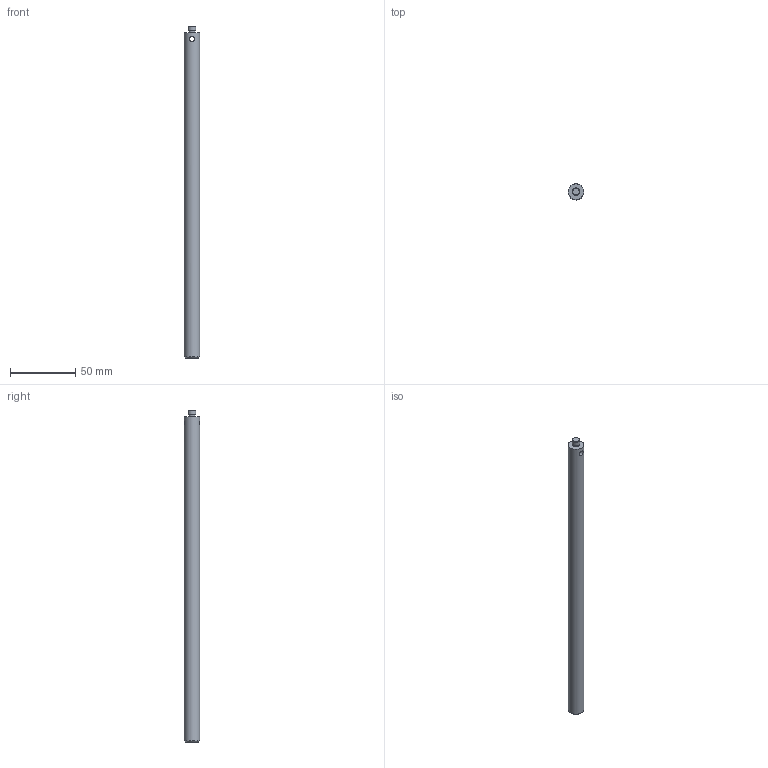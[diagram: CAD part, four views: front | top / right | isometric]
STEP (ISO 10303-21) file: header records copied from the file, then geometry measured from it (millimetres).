
FILE_DESCRIPTION((''),'2;1');
FILE_NAME('S:\1規格品図面ﾃﾞｰﾀ\OpticalHard\01_国内製品\3_Bases\RO\RO-12\RO-12-250\RO-12-250.stp','2007-10-23T16:15:01',('okegawa'),(''),'Autodesk Inventor 11','Autodesk Inventor 11','');
FILE_SCHEMA(('AUTOMOTIVE_DESIGN { 1 0 10303 214 1 1 1 1 }'));
Length unit declared in the file: millimetre
Products named in the file (1): RO-12-250-01-S01
Bounding box: 12 x 12 x 255 mm (x, y, z)
Volume: 28236.6 mm3; surface area: 9850.5 mm2
Topology: 1 solids, 1 shells, 10 faces, 18 edges, 12 vertices
Faces by surface type: cylinder 4, plane 4, cone 2
Full cylindrical faces by diameter (mm): 4 x1, 5 x1, 6 x1, 12 x1
Entity records: 355 total; most frequent: CARTESIAN_POINT 156, DIRECTION 38, ORIENTED_EDGE 22, EDGE_LOOP 20, AXIS2_PLACEMENT_3D 19, VERTEX_POINT 11, EDGE_CURVE 11, FACE_OUTER_BOUND 10
